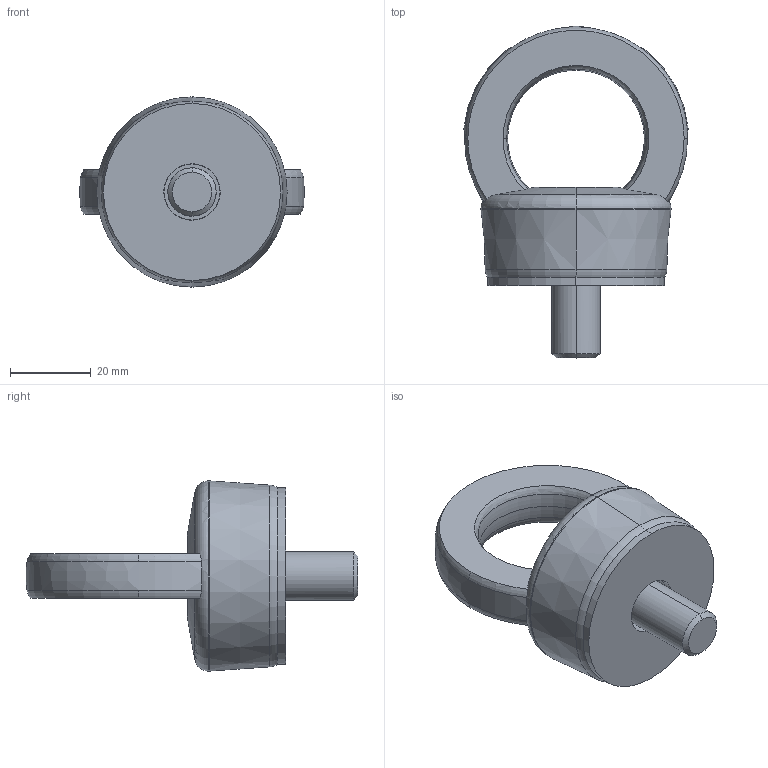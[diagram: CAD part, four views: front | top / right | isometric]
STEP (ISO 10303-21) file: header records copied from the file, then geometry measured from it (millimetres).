
FILE_DESCRIPTION(('CATIA V5 STEP Exchange'),'2;1');
FILE_NAME('C:\Users\Raffaele\Desktop\3D X SITO CF\GOLFARI\817XC\C817X12\STEP-2.03\C817X12.stp','2019-07-01T07:21:00+00:00',('none'),('none'),'CATIA Version 5 Release 20 GA (IN-10)','CATIA V5 STEP AP203','none');
FILE_SCHEMA(('CONFIG_CONTROL_DESIGN'));
Length unit declared in the file: millimetre
Products named in the file (1): _C817X12
Bounding box: 55.69 x 82.47 x 47.25 mm (x, y, z)
Volume: 49582.3 mm3; surface area: 13195.6 mm2
Topology: 1 solids, 1 shells, 61 faces, 178 edges, 122 vertices
Faces by surface type: torus 26, plane 15, cylinder 12, cone 6, bspline 2
Entity records: 2338 total; most frequent: CARTESIAN_POINT 792, ORIENTED_EDGE 356, DIRECTION 237, EDGE_CURVE 178, AXIS2_PLACEMENT_3D 149, VERTEX_POINT 122, CIRCLE 95, EDGE_LOOP 66
